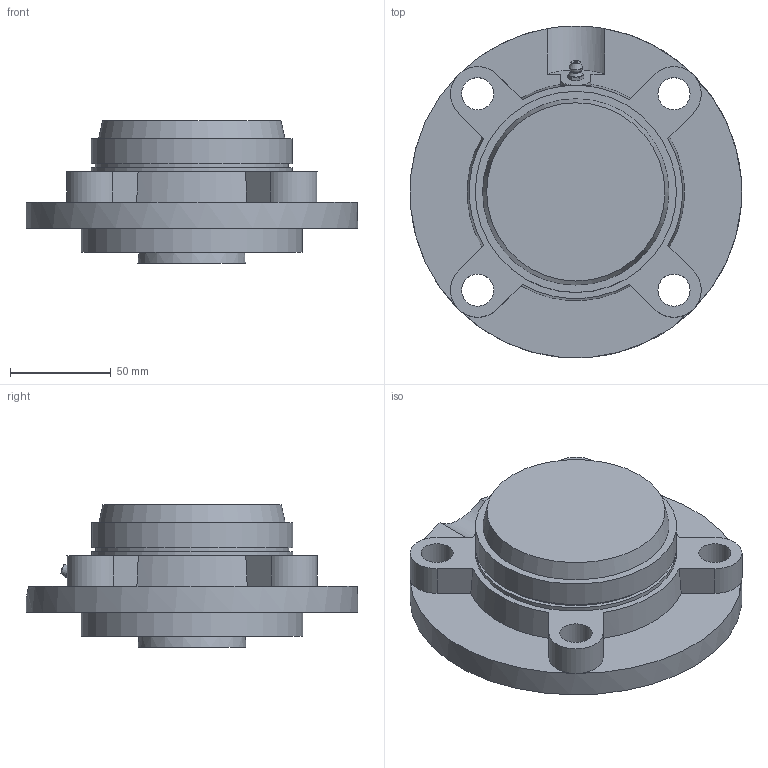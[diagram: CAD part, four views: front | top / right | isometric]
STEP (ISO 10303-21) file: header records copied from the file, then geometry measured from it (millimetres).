
FILE_DESCRIPTION((''),'2;1');
FILE_NAME('\\Ts-tgl068\j-cad-d-base\00.3DCADデータ作成フォルダ\02.フランジ形\UKFC200C(E)\UKFC210E+H.stp','2014-05-22T07:52:40',('btec_1106_2'),(''),'Autodesk Inventor 2012','Autodesk Inventor 2012','');
FILE_SCHEMA(('AUTOMOTIVE_DESIGN { 1 0 10303 214 1 1 1 1 }'));
Length unit declared in the file: millimetre
Products named in the file (5): UKFC200E+H; FC210C; 210CPE; UK210; GU1
Assembly tree (4 placements, depth 2):
  UKFC200E+H
    FC210C
    210CPE
    UK210
    GU1
Bounding box: 164.81 x 164.95 x 71 mm (x, y, z)
Volume: 442478.5 mm3; surface area: 133497 mm2
Topology: 4 solids, 4 shells, 199 faces, 506 edges, 329 vertices
Faces by surface type: plane 88, cylinder 52, cone 51, sphere 4, bspline 2, torus 2
Full cylindrical faces by diameter (mm): 5.359 x1, 6.35 x1, 16 x4, 45 x1, 63 x2, 94 x1, 96 x1, 98 x2, 100 x3, 110 x1, 165 x1
Entity records: 5966 total; most frequent: CARTESIAN_POINT 1364, ORIENTED_EDGE 936, DIRECTION 923, EDGE_CURVE 468, AXIS2_PLACEMENT_3D 383, VERTEX_POINT 318, EDGE_LOOP 257, FACE_OUTER_BOUND 199
